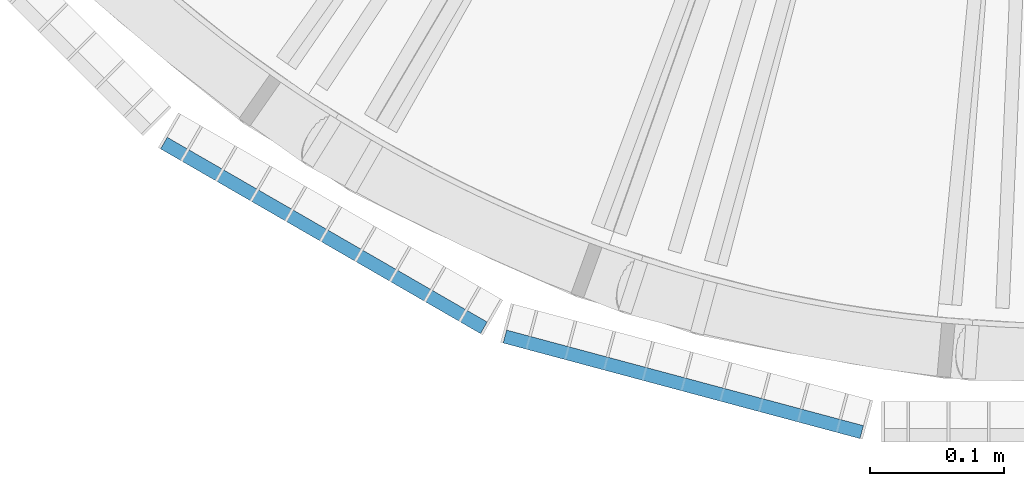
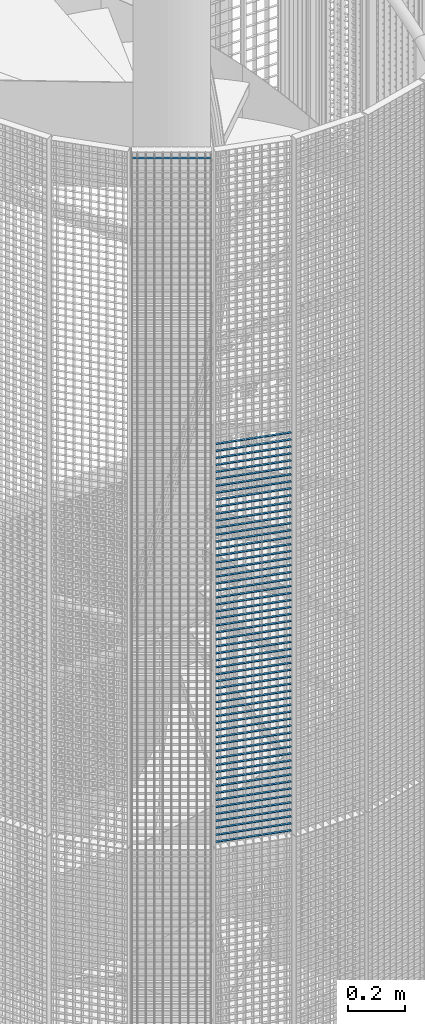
# One storey, part 139 of 1183: 59 beams, 2 elements without a shape of their own.
"""IFC2X3 building model written with IfcOpenShell, lengths in millimetres."""

from ifc_helpers import new_model, si_unit, frame, origin_with_axes, origin_2d_with_axis, place, context, subcontext, project, spatial, rectangle, extrude, material, type_object, element, aggregate, save


model = new_model("IFC2X3")

# Units and contexts
model_context = context("Model", 3, precision=1e-05, world=origin_with_axes())
body_context = subcontext(model_context, "Body", "Model", "MODEL_VIEW")
ifc_project = project(units=[si_unit("LENGTHUNIT", "METRE", prefix="MILLI"), si_unit("AREAUNIT", "SQUARE_METRE"), si_unit("VOLUMEUNIT", "CUBIC_METRE"), si_unit("MASSUNIT", "GRAM", prefix="KILO"), si_unit("TIMEUNIT", "SECOND"), si_unit("PLANEANGLEUNIT", "RADIAN"), si_unit("SOLIDANGLEUNIT", "STERADIAN"), si_unit("THERMODYNAMICTEMPERATUREUNIT", "DEGREE_CELSIUS"), si_unit("LUMINOUSINTENSITYUNIT", "LUMEN")], contexts=[model_context])

# Site, building, storey
site_placement = place(None, origin_with_axes())
site = spatial("IfcSite", under=ifc_project, at=site_placement, Name="Undefined", CompositionType="ELEMENT")
building_placement = place(site_placement, origin_with_axes())
building = spatial("IfcBuilding", under=site, at=building_placement, Name="Undefined", CompositionType="ELEMENT")
storey_placement = place(building_placement, origin_with_axes())
storey = spatial("IfcBuildingStorey", under=building, at=storey_placement, Name="Undefined", CompositionType="ELEMENT", Elevation=0.0)

# Assembly, beams
assembly_1_placement = place(storey_placement, origin_with_axes())
assembly_1 = element("IfcElementAssembly", 1, at=assembly_1_placement, inside=storey, Name="BORDURE", AssemblyPlace="NOTDEFINED", PredefinedType="NOTDEFINED")
ifc_material = material(Name="STEEL/S235JR")
beam_type = type_object("IfcBeamType", Name="PL2*10", PredefinedType="NOTDEFINED")
beam_1_placement = place(assembly_1_placement, frame((-421.483733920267, -1039.82309522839, 16740.0), z_axis=(-0.258819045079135, -0.965925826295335, 0.0), x_axis=(0.965925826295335, -0.258819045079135, 0.0)))
beam_1 = element("IfcBeam", 2, at=beam_1_placement, type_object=beam_type, material=ifc_material, Name="ENTRETOISE", context=body_context, shape_type="SweptSolid", body=[
    extrude(rectangle(XDim=2.0, YDim=10.0, at=origin_2d_with_axis()), frame((275.999999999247, 9.09494701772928e-13, 1.53210777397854e-14), z_axis=(-1.0, 0.0, 0.0), x_axis=(0.0, -1.0, 0.0)), (0.0, 0.0, 1.0), 276.0),
])
beam_2_placement = place(assembly_1_placement, frame((-421.483733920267, -1039.82309522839, 16710.0), z_axis=(-0.258819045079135, -0.965925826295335, 0.0), x_axis=(0.965925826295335, -0.258819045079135, 0.0)))
beam_2 = element("IfcBeam", 3, at=beam_2_placement, type_object=beam_type, material=ifc_material, Name="ENTRETOISE", context=body_context, shape_type="SweptSolid", body=[
    extrude(rectangle(XDim=2.0, YDim=10.0, at=origin_2d_with_axis()), frame((275.999999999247, 9.09494701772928e-13, 1.53210777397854e-14), z_axis=(-1.0, 0.0, 0.0), x_axis=(0.0, -1.0, 0.0)), (0.0, 0.0, 1.0), 276.0),
])
beam_3_placement = place(assembly_1_placement, frame((-421.483733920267, -1039.82309522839, 16680.0), z_axis=(-0.258819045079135, -0.965925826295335, 0.0), x_axis=(0.965925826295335, -0.258819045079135, 0.0)))
beam_3 = element("IfcBeam", 4, at=beam_3_placement, type_object=beam_type, material=ifc_material, Name="ENTRETOISE", context=body_context, shape_type="SweptSolid", body=[
    extrude(rectangle(XDim=2.0, YDim=10.0, at=origin_2d_with_axis()), frame((275.999999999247, 9.09494701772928e-13, 1.53210777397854e-14), z_axis=(-1.0, 0.0, 0.0), x_axis=(0.0, -1.0, 0.0)), (0.0, 0.0, 1.0), 276.0),
])
beam_4_placement = place(assembly_1_placement, frame((-421.483733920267, -1039.82309522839, 16650.0), z_axis=(-0.258819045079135, -0.965925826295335, 0.0), x_axis=(0.965925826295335, -0.258819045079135, 0.0)))
beam_4 = element("IfcBeam", 5, at=beam_4_placement, type_object=beam_type, material=ifc_material, Name="ENTRETOISE", context=body_context, shape_type="SweptSolid", body=[
    extrude(rectangle(XDim=2.0, YDim=10.0, at=origin_2d_with_axis()), frame((275.999999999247, 9.09494701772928e-13, 1.53210777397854e-14), z_axis=(-1.0, 0.0, 0.0), x_axis=(0.0, -1.0, 0.0)), (0.0, 0.0, 1.0), 276.0),
])
beam_5_placement = place(assembly_1_placement, frame((-421.483733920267, -1039.82309522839, 16620.0), z_axis=(-0.258819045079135, -0.965925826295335, 0.0), x_axis=(0.965925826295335, -0.258819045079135, 0.0)))
beam_5 = element("IfcBeam", 6, at=beam_5_placement, type_object=beam_type, material=ifc_material, Name="ENTRETOISE", context=body_context, shape_type="SweptSolid", body=[
    extrude(rectangle(XDim=2.0, YDim=10.0, at=origin_2d_with_axis()), frame((275.999999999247, 9.09494701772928e-13, 1.53210777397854e-14), z_axis=(-1.0, 0.0, 0.0), x_axis=(0.0, -1.0, 0.0)), (0.0, 0.0, 1.0), 276.0),
])
beam_6_placement = place(assembly_1_placement, frame((-421.483733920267, -1039.82309522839, 16590.0), z_axis=(-0.258819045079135, -0.965925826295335, 0.0), x_axis=(0.965925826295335, -0.258819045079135, 0.0)))
beam_6 = element("IfcBeam", 7, at=beam_6_placement, type_object=beam_type, material=ifc_material, Name="ENTRETOISE", context=body_context, shape_type="SweptSolid", body=[
    extrude(rectangle(XDim=2.0, YDim=10.0, at=origin_2d_with_axis()), frame((275.999999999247, 9.09494701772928e-13, 1.53210777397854e-14), z_axis=(-1.0, 0.0, 0.0), x_axis=(0.0, -1.0, 0.0)), (0.0, 0.0, 1.0), 276.0),
])
beam_7_placement = place(assembly_1_placement, frame((-421.483733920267, -1039.82309522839, 16560.0), z_axis=(-0.258819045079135, -0.965925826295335, 0.0), x_axis=(0.965925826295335, -0.258819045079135, 0.0)))
beam_7 = element("IfcBeam", 8, at=beam_7_placement, type_object=beam_type, material=ifc_material, Name="ENTRETOISE", context=body_context, shape_type="SweptSolid", body=[
    extrude(rectangle(XDim=2.0, YDim=10.0, at=origin_2d_with_axis()), frame((275.999999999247, 9.09494701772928e-13, 1.53210777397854e-14), z_axis=(-1.0, 0.0, 0.0), x_axis=(0.0, -1.0, 0.0)), (0.0, 0.0, 1.0), 276.0),
])
beam_8_placement = place(assembly_1_placement, frame((-421.483733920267, -1039.82309522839, 16530.0), z_axis=(-0.258819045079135, -0.965925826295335, 0.0), x_axis=(0.965925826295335, -0.258819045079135, 0.0)))
beam_8 = element("IfcBeam", 9, at=beam_8_placement, type_object=beam_type, material=ifc_material, Name="ENTRETOISE", context=body_context, shape_type="SweptSolid", body=[
    extrude(rectangle(XDim=2.0, YDim=10.0, at=origin_2d_with_axis()), frame((275.999999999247, 9.09494701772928e-13, 1.53210777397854e-14), z_axis=(-1.0, 0.0, 0.0), x_axis=(0.0, -1.0, 0.0)), (0.0, 0.0, 1.0), 276.0),
])
beam_9_placement = place(assembly_1_placement, frame((-421.483733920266, -1039.82309522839, 16500.0), z_axis=(-0.258819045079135, -0.965925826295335, 0.0), x_axis=(0.965925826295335, -0.258819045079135, 0.0)))
beam_9 = element("IfcBeam", 10, at=beam_9_placement, type_object=beam_type, material=ifc_material, Name="ENTRETOISE", context=body_context, shape_type="SweptSolid", body=[
    extrude(rectangle(XDim=2.0, YDim=10.0, at=origin_2d_with_axis()), frame((275.999999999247, 9.09494701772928e-13, 1.53210777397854e-14), z_axis=(-1.0, 0.0, 0.0), x_axis=(0.0, -1.0, 0.0)), (0.0, 0.0, 1.0), 276.0),
])
beam_10_placement = place(assembly_1_placement, frame((-421.483733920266, -1039.82309522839, 16470.0), z_axis=(-0.258819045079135, -0.965925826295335, 0.0), x_axis=(0.965925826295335, -0.258819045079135, 0.0)))
beam_10 = element("IfcBeam", 11, at=beam_10_placement, type_object=beam_type, material=ifc_material, Name="ENTRETOISE", context=body_context, shape_type="SweptSolid", body=[
    extrude(rectangle(XDim=2.0, YDim=10.0, at=origin_2d_with_axis()), frame((275.999999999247, 9.09494701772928e-13, 1.53210777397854e-14), z_axis=(-1.0, 0.0, 0.0), x_axis=(0.0, -1.0, 0.0)), (0.0, 0.0, 1.0), 276.0),
])
beam_11_placement = place(assembly_1_placement, frame((-421.483733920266, -1039.82309522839, 16440.0), z_axis=(-0.258819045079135, -0.965925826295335, 0.0), x_axis=(0.965925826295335, -0.258819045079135, 0.0)))
beam_11 = element("IfcBeam", 12, at=beam_11_placement, type_object=beam_type, material=ifc_material, Name="ENTRETOISE", context=body_context, shape_type="SweptSolid", body=[
    extrude(rectangle(XDim=2.0, YDim=10.0, at=origin_2d_with_axis()), frame((275.999999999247, 9.09494701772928e-13, 1.53210777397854e-14), z_axis=(-1.0, 0.0, 0.0), x_axis=(0.0, -1.0, 0.0)), (0.0, 0.0, 1.0), 276.0),
])
beam_12_placement = place(assembly_1_placement, frame((-421.483733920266, -1039.82309522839, 16410.0), z_axis=(-0.258819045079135, -0.965925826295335, 0.0), x_axis=(0.965925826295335, -0.258819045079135, 0.0)))
beam_12 = element("IfcBeam", 13, at=beam_12_placement, type_object=beam_type, material=ifc_material, Name="ENTRETOISE", context=body_context, shape_type="SweptSolid", body=[
    extrude(rectangle(XDim=2.0, YDim=10.0, at=origin_2d_with_axis()), frame((275.999999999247, 9.09494701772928e-13, 1.53210777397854e-14), z_axis=(-1.0, 0.0, 0.0), x_axis=(0.0, -1.0, 0.0)), (0.0, 0.0, 1.0), 276.0),
])
beam_13_placement = place(assembly_1_placement, frame((-421.483733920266, -1039.82309522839, 16380.0), z_axis=(-0.258819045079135, -0.965925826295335, 0.0), x_axis=(0.965925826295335, -0.258819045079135, 0.0)))
beam_13 = element("IfcBeam", 14, at=beam_13_placement, type_object=beam_type, material=ifc_material, Name="ENTRETOISE", context=body_context, shape_type="SweptSolid", body=[
    extrude(rectangle(XDim=2.0, YDim=10.0, at=origin_2d_with_axis()), frame((275.999999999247, 9.09494701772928e-13, 1.53210777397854e-14), z_axis=(-1.0, 0.0, 0.0), x_axis=(0.0, -1.0, 0.0)), (0.0, 0.0, 1.0), 276.0),
])
beam_14_placement = place(assembly_1_placement, frame((-421.483733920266, -1039.82309522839, 16350.0), z_axis=(-0.258819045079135, -0.965925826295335, 0.0), x_axis=(0.965925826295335, -0.258819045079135, 0.0)))
beam_14 = element("IfcBeam", 15, at=beam_14_placement, type_object=beam_type, material=ifc_material, Name="ENTRETOISE", context=body_context, shape_type="SweptSolid", body=[
    extrude(rectangle(XDim=2.0, YDim=10.0, at=origin_2d_with_axis()), frame((275.999999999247, 9.09494701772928e-13, 1.53210777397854e-14), z_axis=(-1.0, 0.0, 0.0), x_axis=(0.0, -1.0, 0.0)), (0.0, 0.0, 1.0), 276.0),
])
beam_15_placement = place(assembly_1_placement, frame((-421.483733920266, -1039.82309522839, 16320.0), z_axis=(-0.258819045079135, -0.965925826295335, 0.0), x_axis=(0.965925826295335, -0.258819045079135, 0.0)))
beam_15 = element("IfcBeam", 16, at=beam_15_placement, type_object=beam_type, material=ifc_material, Name="ENTRETOISE", context=body_context, shape_type="SweptSolid", body=[
    extrude(rectangle(XDim=2.0, YDim=10.0, at=origin_2d_with_axis()), frame((275.999999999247, 9.09494701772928e-13, 1.53210777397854e-14), z_axis=(-1.0, 0.0, 0.0), x_axis=(0.0, -1.0, 0.0)), (0.0, 0.0, 1.0), 276.0),
])
beam_16_placement = place(assembly_1_placement, frame((-421.483733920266, -1039.82309522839, 16290.0), z_axis=(-0.258819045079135, -0.965925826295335, 0.0), x_axis=(0.965925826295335, -0.258819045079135, 0.0)))
beam_16 = element("IfcBeam", 17, at=beam_16_placement, type_object=beam_type, material=ifc_material, Name="ENTRETOISE", context=body_context, shape_type="SweptSolid", body=[
    extrude(rectangle(XDim=2.0, YDim=10.0, at=origin_2d_with_axis()), frame((275.999999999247, 9.09494701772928e-13, 1.53210777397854e-14), z_axis=(-1.0, 0.0, 0.0), x_axis=(0.0, -1.0, 0.0)), (0.0, 0.0, 1.0), 276.0),
])
beam_17_placement = place(assembly_1_placement, frame((-421.483733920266, -1039.82309522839, 16260.0), z_axis=(-0.258819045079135, -0.965925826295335, 0.0), x_axis=(0.965925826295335, -0.258819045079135, 0.0)))
beam_17 = element("IfcBeam", 18, at=beam_17_placement, type_object=beam_type, material=ifc_material, Name="ENTRETOISE", context=body_context, shape_type="SweptSolid", body=[
    extrude(rectangle(XDim=2.0, YDim=10.0, at=origin_2d_with_axis()), frame((275.999999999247, 9.09494701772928e-13, 1.53210777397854e-14), z_axis=(-1.0, 0.0, 0.0), x_axis=(0.0, -1.0, 0.0)), (0.0, 0.0, 1.0), 276.0),
])
beam_18_placement = place(assembly_1_placement, frame((-421.483733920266, -1039.82309522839, 16230.0), z_axis=(-0.258819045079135, -0.965925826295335, 0.0), x_axis=(0.965925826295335, -0.258819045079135, 0.0)))
beam_18 = element("IfcBeam", 19, at=beam_18_placement, type_object=beam_type, material=ifc_material, Name="ENTRETOISE", context=body_context, shape_type="SweptSolid", body=[
    extrude(rectangle(XDim=2.0, YDim=10.0, at=origin_2d_with_axis()), frame((275.999999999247, 9.09494701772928e-13, 1.53210777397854e-14), z_axis=(-1.0, 0.0, 0.0), x_axis=(0.0, -1.0, 0.0)), (0.0, 0.0, 1.0), 276.0),
])
beam_19_placement = place(assembly_1_placement, frame((-421.483733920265, -1039.82309522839, 16200.0), z_axis=(-0.258819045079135, -0.965925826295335, 0.0), x_axis=(0.965925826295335, -0.258819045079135, 0.0)))
beam_19 = element("IfcBeam", 20, at=beam_19_placement, type_object=beam_type, material=ifc_material, Name="ENTRETOISE", context=body_context, shape_type="SweptSolid", body=[
    extrude(rectangle(XDim=2.0, YDim=10.0, at=origin_2d_with_axis()), frame((275.999999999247, 9.09494701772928e-13, 1.53210777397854e-14), z_axis=(-1.0, 0.0, 0.0), x_axis=(0.0, -1.0, 0.0)), (0.0, 0.0, 1.0), 276.0),
])
beam_20_placement = place(assembly_1_placement, frame((-421.483733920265, -1039.82309522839, 16170.0), z_axis=(-0.258819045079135, -0.965925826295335, 0.0), x_axis=(0.965925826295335, -0.258819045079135, 0.0)))
beam_20 = element("IfcBeam", 21, at=beam_20_placement, type_object=beam_type, material=ifc_material, Name="ENTRETOISE", context=body_context, shape_type="SweptSolid", body=[
    extrude(rectangle(XDim=2.0, YDim=10.0, at=origin_2d_with_axis()), frame((275.999999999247, 9.09494701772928e-13, 1.53210777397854e-14), z_axis=(-1.0, 0.0, 0.0), x_axis=(0.0, -1.0, 0.0)), (0.0, 0.0, 1.0), 276.0),
])
beam_21_placement = place(assembly_1_placement, frame((-421.483733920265, -1039.82309522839, 16140.0), z_axis=(-0.258819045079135, -0.965925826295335, 0.0), x_axis=(0.965925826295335, -0.258819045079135, 0.0)))
beam_21 = element("IfcBeam", 22, at=beam_21_placement, type_object=beam_type, material=ifc_material, Name="ENTRETOISE", context=body_context, shape_type="SweptSolid", body=[
    extrude(rectangle(XDim=2.0, YDim=10.0, at=origin_2d_with_axis()), frame((275.999999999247, 9.09494701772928e-13, 1.53210777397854e-14), z_axis=(-1.0, 0.0, 0.0), x_axis=(0.0, -1.0, 0.0)), (0.0, 0.0, 1.0), 276.0),
])
beam_22_placement = place(assembly_1_placement, frame((-421.483733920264, -1039.82309522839, 15720.0), z_axis=(-0.258819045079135, -0.965925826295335, 0.0), x_axis=(0.965925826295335, -0.258819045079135, 0.0)))
beam_22 = element("IfcBeam", 23, at=beam_22_placement, type_object=beam_type, material=ifc_material, Name="ENTRETOISE", context=body_context, shape_type="SweptSolid", body=[
    extrude(rectangle(XDim=2.0, YDim=10.0, at=origin_2d_with_axis()), frame((275.999999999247, 9.09494701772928e-13, 1.53210777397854e-14), z_axis=(-1.0, 0.0, 0.0), x_axis=(0.0, -1.0, 0.0)), (0.0, 0.0, 1.0), 276.0),
])
beam_23_placement = place(assembly_1_placement, frame((-421.483733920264, -1039.82309522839, 15690.0), z_axis=(-0.258819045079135, -0.965925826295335, 0.0), x_axis=(0.965925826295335, -0.258819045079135, 0.0)))
beam_23 = element("IfcBeam", 24, at=beam_23_placement, type_object=beam_type, material=ifc_material, Name="ENTRETOISE", context=body_context, shape_type="SweptSolid", body=[
    extrude(rectangle(XDim=2.0, YDim=10.0, at=origin_2d_with_axis()), frame((275.999999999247, 9.09494701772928e-13, 1.53210777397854e-14), z_axis=(-1.0, 0.0, 0.0), x_axis=(0.0, -1.0, 0.0)), (0.0, 0.0, 1.0), 276.0),
])
beam_24_placement = place(assembly_1_placement, frame((-421.483733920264, -1039.82309522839, 15750.0), z_axis=(-0.258819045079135, -0.965925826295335, 0.0), x_axis=(0.965925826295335, -0.258819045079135, 0.0)))
beam_24 = element("IfcBeam", 25, at=beam_24_placement, type_object=beam_type, material=ifc_material, Name="ENTRETOISE", context=body_context, shape_type="SweptSolid", body=[
    extrude(rectangle(XDim=2.0, YDim=10.0, at=origin_2d_with_axis()), frame((275.999999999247, 9.09494701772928e-13, 1.53210777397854e-14), z_axis=(-1.0, 0.0, 0.0), x_axis=(0.0, -1.0, 0.0)), (0.0, 0.0, 1.0), 276.0),
])
beam_25_placement = place(assembly_1_placement, frame((-421.483733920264, -1039.82309522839, 15660.0), z_axis=(-0.258819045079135, -0.965925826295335, 0.0), x_axis=(0.965925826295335, -0.258819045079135, 0.0)))
beam_25 = element("IfcBeam", 26, at=beam_25_placement, type_object=beam_type, material=ifc_material, Name="ENTRETOISE", context=body_context, shape_type="SweptSolid", body=[
    extrude(rectangle(XDim=2.0, YDim=10.0, at=origin_2d_with_axis()), frame((275.999999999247, 9.09494701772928e-13, 1.53210777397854e-14), z_axis=(-1.0, 0.0, 0.0), x_axis=(0.0, -1.0, 0.0)), (0.0, 0.0, 1.0), 276.0),
])
beam_26_placement = place(assembly_1_placement, frame((-421.483733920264, -1039.82309522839, 15630.0), z_axis=(-0.258819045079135, -0.965925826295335, 0.0), x_axis=(0.965925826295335, -0.258819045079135, 0.0)))
beam_26 = element("IfcBeam", 27, at=beam_26_placement, type_object=beam_type, material=ifc_material, Name="ENTRETOISE", context=body_context, shape_type="SweptSolid", body=[
    extrude(rectangle(XDim=2.0, YDim=10.0, at=origin_2d_with_axis()), frame((275.999999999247, 9.09494701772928e-13, 1.53210777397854e-14), z_axis=(-1.0, 0.0, 0.0), x_axis=(0.0, -1.0, 0.0)), (0.0, 0.0, 1.0), 276.0),
])
beam_27_placement = place(assembly_1_placement, frame((-421.483733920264, -1039.82309522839, 15780.0), z_axis=(-0.258819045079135, -0.965925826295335, 0.0), x_axis=(0.965925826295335, -0.258819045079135, 0.0)))
beam_27 = element("IfcBeam", 28, at=beam_27_placement, type_object=beam_type, material=ifc_material, Name="ENTRETOISE", context=body_context, shape_type="SweptSolid", body=[
    extrude(rectangle(XDim=2.0, YDim=10.0, at=origin_2d_with_axis()), frame((275.999999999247, 9.09494701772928e-13, 1.53210777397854e-14), z_axis=(-1.0, 0.0, 0.0), x_axis=(0.0, -1.0, 0.0)), (0.0, 0.0, 1.0), 276.0),
])
beam_28_placement = place(assembly_1_placement, frame((-421.483733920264, -1039.82309522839, 15600.0), z_axis=(-0.258819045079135, -0.965925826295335, 0.0), x_axis=(0.965925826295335, -0.258819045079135, 0.0)))
beam_28 = element("IfcBeam", 29, at=beam_28_placement, type_object=beam_type, material=ifc_material, Name="ENTRETOISE", context=body_context, shape_type="SweptSolid", body=[
    extrude(rectangle(XDim=2.0, YDim=10.0, at=origin_2d_with_axis()), frame((275.999999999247, 9.09494701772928e-13, 1.53210777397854e-14), z_axis=(-1.0, 0.0, 0.0), x_axis=(0.0, -1.0, 0.0)), (0.0, 0.0, 1.0), 276.0),
])
beam_29_placement = place(assembly_1_placement, frame((-421.483733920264, -1039.82309522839, 15810.0), z_axis=(-0.258819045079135, -0.965925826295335, 0.0), x_axis=(0.965925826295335, -0.258819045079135, 0.0)))
beam_29 = element("IfcBeam", 30, at=beam_29_placement, type_object=beam_type, material=ifc_material, Name="ENTRETOISE", context=body_context, shape_type="SweptSolid", body=[
    extrude(rectangle(XDim=2.0, YDim=10.0, at=origin_2d_with_axis()), frame((275.999999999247, 9.09494701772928e-13, 1.53210777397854e-14), z_axis=(-1.0, 0.0, 0.0), x_axis=(0.0, -1.0, 0.0)), (0.0, 0.0, 1.0), 276.0),
])
beam_30_placement = place(assembly_1_placement, frame((-421.483733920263, -1039.82309522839, 15570.0), z_axis=(-0.258819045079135, -0.965925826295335, 0.0), x_axis=(0.965925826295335, -0.258819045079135, 0.0)))
beam_30 = element("IfcBeam", 31, at=beam_30_placement, type_object=beam_type, material=ifc_material, Name="ENTRETOISE", context=body_context, shape_type="SweptSolid", body=[
    extrude(rectangle(XDim=2.0, YDim=10.0, at=origin_2d_with_axis()), frame((275.999999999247, 9.09494701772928e-13, 1.53210777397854e-14), z_axis=(-1.0, 0.0, 0.0), x_axis=(0.0, -1.0, 0.0)), (0.0, 0.0, 1.0), 276.0),
])
beam_31_placement = place(assembly_1_placement, frame((-421.483733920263, -1039.82309522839, 15540.0), z_axis=(-0.258819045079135, -0.965925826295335, 0.0), x_axis=(0.965925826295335, -0.258819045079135, 0.0)))
beam_31 = element("IfcBeam", 32, at=beam_31_placement, type_object=beam_type, material=ifc_material, Name="ENTRETOISE", context=body_context, shape_type="SweptSolid", body=[
    extrude(rectangle(XDim=2.0, YDim=10.0, at=origin_2d_with_axis()), frame((275.999999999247, 9.09494701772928e-13, 1.53210777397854e-14), z_axis=(-1.0, 0.0, 0.0), x_axis=(0.0, -1.0, 0.0)), (0.0, 0.0, 1.0), 276.0),
])
beam_32_placement = place(assembly_1_placement, frame((-421.483733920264, -1039.82309522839, 15840.0), z_axis=(-0.258819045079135, -0.965925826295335, 0.0), x_axis=(0.965925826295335, -0.258819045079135, 0.0)))
beam_32 = element("IfcBeam", 33, at=beam_32_placement, type_object=beam_type, material=ifc_material, Name="ENTRETOISE", context=body_context, shape_type="SweptSolid", body=[
    extrude(rectangle(XDim=2.0, YDim=10.0, at=origin_2d_with_axis()), frame((275.999999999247, 9.09494701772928e-13, 1.53210777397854e-14), z_axis=(-1.0, 0.0, 0.0), x_axis=(0.0, -1.0, 0.0)), (0.0, 0.0, 1.0), 276.0),
])
beam_33_placement = place(assembly_1_placement, frame((-421.483733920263, -1039.82309522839, 15510.0), z_axis=(-0.258819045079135, -0.965925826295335, 0.0), x_axis=(0.965925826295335, -0.258819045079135, 0.0)))
beam_33 = element("IfcBeam", 34, at=beam_33_placement, type_object=beam_type, material=ifc_material, Name="ENTRETOISE", context=body_context, shape_type="SweptSolid", body=[
    extrude(rectangle(XDim=2.0, YDim=10.0, at=origin_2d_with_axis()), frame((275.999999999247, 9.09494701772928e-13, 1.53210777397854e-14), z_axis=(-1.0, 0.0, 0.0), x_axis=(0.0, -1.0, 0.0)), (0.0, 0.0, 1.0), 276.0),
])
beam_34_placement = place(assembly_1_placement, frame((-421.483733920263, -1039.82309522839, 15480.0), z_axis=(-0.258819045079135, -0.965925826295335, 0.0), x_axis=(0.965925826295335, -0.258819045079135, 0.0)))
beam_34 = element("IfcBeam", 35, at=beam_34_placement, type_object=beam_type, material=ifc_material, Name="ENTRETOISE", context=body_context, shape_type="SweptSolid", body=[
    extrude(rectangle(XDim=2.0, YDim=10.0, at=origin_2d_with_axis()), frame((275.999999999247, 9.09494701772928e-13, 1.53210777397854e-14), z_axis=(-1.0, 0.0, 0.0), x_axis=(0.0, -1.0, 0.0)), (0.0, 0.0, 1.0), 276.0),
])
beam_35_placement = place(assembly_1_placement, frame((-421.483733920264, -1039.82309522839, 15870.0), z_axis=(-0.258819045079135, -0.965925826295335, 0.0), x_axis=(0.965925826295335, -0.258819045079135, 0.0)))
beam_35 = element("IfcBeam", 36, at=beam_35_placement, type_object=beam_type, material=ifc_material, Name="ENTRETOISE", context=body_context, shape_type="SweptSolid", body=[
    extrude(rectangle(XDim=2.0, YDim=10.0, at=origin_2d_with_axis()), frame((275.999999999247, 9.09494701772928e-13, 1.53210777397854e-14), z_axis=(-1.0, 0.0, 0.0), x_axis=(0.0, -1.0, 0.0)), (0.0, 0.0, 1.0), 276.0),
])
beam_36_placement = place(assembly_1_placement, frame((-421.483733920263, -1039.82309522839, 15450.0), z_axis=(-0.258819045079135, -0.965925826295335, 0.0), x_axis=(0.965925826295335, -0.258819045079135, 0.0)))
beam_36 = element("IfcBeam", 37, at=beam_36_placement, type_object=beam_type, material=ifc_material, Name="ENTRETOISE", context=body_context, shape_type="SweptSolid", body=[
    extrude(rectangle(XDim=2.0, YDim=10.0, at=origin_2d_with_axis()), frame((275.999999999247, 9.09494701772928e-13, 1.53210777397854e-14), z_axis=(-1.0, 0.0, 0.0), x_axis=(0.0, -1.0, 0.0)), (0.0, 0.0, 1.0), 276.0),
])
beam_37_placement = place(assembly_1_placement, frame((-421.483733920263, -1039.82309522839, 15420.0), z_axis=(-0.258819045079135, -0.965925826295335, 0.0), x_axis=(0.965925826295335, -0.258819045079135, 0.0)))
beam_37 = element("IfcBeam", 38, at=beam_37_placement, type_object=beam_type, material=ifc_material, Name="ENTRETOISE", context=body_context, shape_type="SweptSolid", body=[
    extrude(rectangle(XDim=2.0, YDim=10.0, at=origin_2d_with_axis()), frame((275.999999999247, 9.09494701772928e-13, 1.53210777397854e-14), z_axis=(-1.0, 0.0, 0.0), x_axis=(0.0, -1.0, 0.0)), (0.0, 0.0, 1.0), 276.0),
])
beam_38_placement = place(assembly_1_placement, frame((-421.483733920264, -1039.82309522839, 15900.0), z_axis=(-0.258819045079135, -0.965925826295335, 0.0), x_axis=(0.965925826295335, -0.258819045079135, 0.0)))
beam_38 = element("IfcBeam", 39, at=beam_38_placement, type_object=beam_type, material=ifc_material, Name="ENTRETOISE", context=body_context, shape_type="SweptSolid", body=[
    extrude(rectangle(XDim=2.0, YDim=10.0, at=origin_2d_with_axis()), frame((275.999999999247, 9.09494701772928e-13, 1.53210777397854e-14), z_axis=(-1.0, 0.0, 0.0), x_axis=(0.0, -1.0, 0.0)), (0.0, 0.0, 1.0), 276.0),
])
beam_39_placement = place(assembly_1_placement, frame((-421.483733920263, -1039.82309522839, 15390.0), z_axis=(-0.258819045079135, -0.965925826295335, 0.0), x_axis=(0.965925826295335, -0.258819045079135, 0.0)))
beam_39 = element("IfcBeam", 40, at=beam_39_placement, type_object=beam_type, material=ifc_material, Name="ENTRETOISE", context=body_context, shape_type="SweptSolid", body=[
    extrude(rectangle(XDim=2.0, YDim=10.0, at=origin_2d_with_axis()), frame((275.999999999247, 9.09494701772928e-13, 1.53210777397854e-14), z_axis=(-1.0, 0.0, 0.0), x_axis=(0.0, -1.0, 0.0)), (0.0, 0.0, 1.0), 276.0),
])
beam_40_placement = place(assembly_1_placement, frame((-421.483733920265, -1039.82309522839, 15930.0), z_axis=(-0.258819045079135, -0.965925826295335, 0.0), x_axis=(0.965925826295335, -0.258819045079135, 0.0)))
beam_40 = element("IfcBeam", 41, at=beam_40_placement, type_object=beam_type, material=ifc_material, Name="ENTRETOISE", context=body_context, shape_type="SweptSolid", body=[
    extrude(rectangle(XDim=2.0, YDim=10.0, at=origin_2d_with_axis()), frame((275.999999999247, 9.09494701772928e-13, 1.53210777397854e-14), z_axis=(-1.0, 0.0, 0.0), x_axis=(0.0, -1.0, 0.0)), (0.0, 0.0, 1.0), 276.0),
])
beam_41_placement = place(assembly_1_placement, frame((-421.483733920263, -1039.82309522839, 15360.0), z_axis=(-0.258819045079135, -0.965925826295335, 0.0), x_axis=(0.965925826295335, -0.258819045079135, 0.0)))
beam_41 = element("IfcBeam", 42, at=beam_41_placement, type_object=beam_type, material=ifc_material, Name="ENTRETOISE", context=body_context, shape_type="SweptSolid", body=[
    extrude(rectangle(XDim=2.0, YDim=10.0, at=origin_2d_with_axis()), frame((275.999999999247, 9.09494701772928e-13, 1.53210777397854e-14), z_axis=(-1.0, 0.0, 0.0), x_axis=(0.0, -1.0, 0.0)), (0.0, 0.0, 1.0), 276.0),
])
beam_42_placement = place(assembly_1_placement, frame((-421.483733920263, -1039.82309522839, 15330.0), z_axis=(-0.258819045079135, -0.965925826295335, 0.0), x_axis=(0.965925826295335, -0.258819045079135, 0.0)))
beam_42 = element("IfcBeam", 43, at=beam_42_placement, type_object=beam_type, material=ifc_material, Name="ENTRETOISE", context=body_context, shape_type="SweptSolid", body=[
    extrude(rectangle(XDim=2.0, YDim=10.0, at=origin_2d_with_axis()), frame((275.999999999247, 9.09494701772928e-13, 1.53210777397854e-14), z_axis=(-1.0, 0.0, 0.0), x_axis=(0.0, -1.0, 0.0)), (0.0, 0.0, 1.0), 276.0),
])
beam_43_placement = place(assembly_1_placement, frame((-421.483733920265, -1039.82309522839, 15960.0), z_axis=(-0.258819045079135, -0.965925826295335, 0.0), x_axis=(0.965925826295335, -0.258819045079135, 0.0)))
beam_43 = element("IfcBeam", 44, at=beam_43_placement, type_object=beam_type, material=ifc_material, Name="ENTRETOISE", context=body_context, shape_type="SweptSolid", body=[
    extrude(rectangle(XDim=2.0, YDim=10.0, at=origin_2d_with_axis()), frame((275.999999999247, 9.09494701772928e-13, 1.53210777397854e-14), z_axis=(-1.0, 0.0, 0.0), x_axis=(0.0, -1.0, 0.0)), (0.0, 0.0, 1.0), 276.0),
])
beam_44_placement = place(assembly_1_placement, frame((-421.483733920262, -1039.82309522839, 15300.0), z_axis=(-0.258819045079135, -0.965925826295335, 0.0), x_axis=(0.965925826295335, -0.258819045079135, 0.0)))
beam_44 = element("IfcBeam", 45, at=beam_44_placement, type_object=beam_type, material=ifc_material, Name="ENTRETOISE", context=body_context, shape_type="SweptSolid", body=[
    extrude(rectangle(XDim=2.0, YDim=10.0, at=origin_2d_with_axis()), frame((275.999999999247, 9.09494701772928e-13, 1.53210777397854e-14), z_axis=(-1.0, 0.0, 0.0), x_axis=(0.0, -1.0, 0.0)), (0.0, 0.0, 1.0), 276.0),
])
beam_45_placement = place(assembly_1_placement, frame((-421.483733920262, -1039.82309522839, 15270.0), z_axis=(-0.258819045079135, -0.965925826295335, 0.0), x_axis=(0.965925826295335, -0.258819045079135, 0.0)))
beam_45 = element("IfcBeam", 46, at=beam_45_placement, type_object=beam_type, material=ifc_material, Name="ENTRETOISE", context=body_context, shape_type="SweptSolid", body=[
    extrude(rectangle(XDim=2.0, YDim=10.0, at=origin_2d_with_axis()), frame((275.999999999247, 9.09494701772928e-13, 1.53210777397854e-14), z_axis=(-1.0, 0.0, 0.0), x_axis=(0.0, -1.0, 0.0)), (0.0, 0.0, 1.0), 276.0),
])
beam_46_placement = place(assembly_1_placement, frame((-421.483733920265, -1039.82309522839, 15990.0), z_axis=(-0.258819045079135, -0.965925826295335, 0.0), x_axis=(0.965925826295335, -0.258819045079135, 0.0)))
beam_46 = element("IfcBeam", 47, at=beam_46_placement, type_object=beam_type, material=ifc_material, Name="ENTRETOISE", context=body_context, shape_type="SweptSolid", body=[
    extrude(rectangle(XDim=2.0, YDim=10.0, at=origin_2d_with_axis()), frame((275.999999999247, 9.09494701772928e-13, 1.53210777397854e-14), z_axis=(-1.0, 0.0, 0.0), x_axis=(0.0, -1.0, 0.0)), (0.0, 0.0, 1.0), 276.0),
])
beam_47_placement = place(assembly_1_placement, frame((-421.483733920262, -1039.82309522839, 15240.0), z_axis=(-0.258819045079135, -0.965925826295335, 0.0), x_axis=(0.965925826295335, -0.258819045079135, 0.0)))
beam_47 = element("IfcBeam", 48, at=beam_47_placement, type_object=beam_type, material=ifc_material, Name="ENTRETOISE", context=body_context, shape_type="SweptSolid", body=[
    extrude(rectangle(XDim=2.0, YDim=10.0, at=origin_2d_with_axis()), frame((275.999999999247, 9.09494701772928e-13, 1.53210777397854e-14), z_axis=(-1.0, 0.0, 0.0), x_axis=(0.0, -1.0, 0.0)), (0.0, 0.0, 1.0), 276.0),
])
beam_48_placement = place(assembly_1_placement, frame((-421.483733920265, -1039.82309522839, 16020.0), z_axis=(-0.258819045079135, -0.965925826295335, 0.0), x_axis=(0.965925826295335, -0.258819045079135, 0.0)))
beam_48 = element("IfcBeam", 49, at=beam_48_placement, type_object=beam_type, material=ifc_material, Name="ENTRETOISE", context=body_context, shape_type="SweptSolid", body=[
    extrude(rectangle(XDim=2.0, YDim=10.0, at=origin_2d_with_axis()), frame((275.999999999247, 9.09494701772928e-13, 1.53210777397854e-14), z_axis=(-1.0, 0.0, 0.0), x_axis=(0.0, -1.0, 0.0)), (0.0, 0.0, 1.0), 276.0),
])
beam_49_placement = place(assembly_1_placement, frame((-421.483733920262, -1039.82309522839, 15210.0), z_axis=(-0.258819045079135, -0.965925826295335, 0.0), x_axis=(0.965925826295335, -0.258819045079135, 0.0)))
beam_49 = element("IfcBeam", 50, at=beam_49_placement, type_object=beam_type, material=ifc_material, Name="ENTRETOISE", context=body_context, shape_type="SweptSolid", body=[
    extrude(rectangle(XDim=2.0, YDim=10.0, at=origin_2d_with_axis()), frame((275.999999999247, 9.09494701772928e-13, 1.53210777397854e-14), z_axis=(-1.0, 0.0, 0.0), x_axis=(0.0, -1.0, 0.0)), (0.0, 0.0, 1.0), 276.0),
])
beam_50_placement = place(assembly_1_placement, frame((-421.483733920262, -1039.82309522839, 15180.0), z_axis=(-0.258819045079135, -0.965925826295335, 0.0), x_axis=(0.965925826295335, -0.258819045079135, 0.0)))
beam_50 = element("IfcBeam", 51, at=beam_50_placement, type_object=beam_type, material=ifc_material, Name="ENTRETOISE", context=body_context, shape_type="SweptSolid", body=[
    extrude(rectangle(XDim=2.0, YDim=10.0, at=origin_2d_with_axis()), frame((275.999999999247, 9.09494701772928e-13, 1.53210777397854e-14), z_axis=(-1.0, 0.0, 0.0), x_axis=(0.0, -1.0, 0.0)), (0.0, 0.0, 1.0), 276.0),
])
beam_51_placement = place(assembly_1_placement, frame((-421.483733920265, -1039.82309522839, 16050.0), z_axis=(-0.258819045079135, -0.965925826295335, 0.0), x_axis=(0.965925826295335, -0.258819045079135, 0.0)))
beam_51 = element("IfcBeam", 52, at=beam_51_placement, type_object=beam_type, material=ifc_material, Name="ENTRETOISE", context=body_context, shape_type="SweptSolid", body=[
    extrude(rectangle(XDim=2.0, YDim=10.0, at=origin_2d_with_axis()), frame((275.999999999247, 9.09494701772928e-13, 1.53210777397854e-14), z_axis=(-1.0, 0.0, 0.0), x_axis=(0.0, -1.0, 0.0)), (0.0, 0.0, 1.0), 276.0),
])
beam_52_placement = place(assembly_1_placement, frame((-421.483733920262, -1039.82309522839, 15150.0), z_axis=(-0.258819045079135, -0.965925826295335, 0.0), x_axis=(0.965925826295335, -0.258819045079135, 0.0)))
beam_52 = element("IfcBeam", 53, at=beam_52_placement, type_object=beam_type, material=ifc_material, Name="ENTRETOISE", context=body_context, shape_type="SweptSolid", body=[
    extrude(rectangle(XDim=2.0, YDim=10.0, at=origin_2d_with_axis()), frame((275.999999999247, 9.09494701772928e-13, 1.53210777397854e-14), z_axis=(-1.0, 0.0, 0.0), x_axis=(0.0, -1.0, 0.0)), (0.0, 0.0, 1.0), 276.0),
])
beam_53_placement = place(assembly_1_placement, frame((-421.483733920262, -1039.82309522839, 15120.0), z_axis=(-0.258819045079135, -0.965925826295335, 0.0), x_axis=(0.965925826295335, -0.258819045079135, 0.0)))
beam_53 = element("IfcBeam", 54, at=beam_53_placement, type_object=beam_type, material=ifc_material, Name="ENTRETOISE", context=body_context, shape_type="SweptSolid", body=[
    extrude(rectangle(XDim=2.0, YDim=10.0, at=origin_2d_with_axis()), frame((275.999999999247, 9.09494701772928e-13, 1.53210777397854e-14), z_axis=(-1.0, 0.0, 0.0), x_axis=(0.0, -1.0, 0.0)), (0.0, 0.0, 1.0), 276.0),
])
beam_54_placement = place(assembly_1_placement, frame((-421.483733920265, -1039.82309522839, 16080.0), z_axis=(-0.258819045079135, -0.965925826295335, 0.0), x_axis=(0.965925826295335, -0.258819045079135, 0.0)))
beam_54 = element("IfcBeam", 55, at=beam_54_placement, type_object=beam_type, material=ifc_material, Name="ENTRETOISE", context=body_context, shape_type="SweptSolid", body=[
    extrude(rectangle(XDim=2.0, YDim=10.0, at=origin_2d_with_axis()), frame((275.999999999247, 9.09494701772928e-13, 1.53210777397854e-14), z_axis=(-1.0, 0.0, 0.0), x_axis=(0.0, -1.0, 0.0)), (0.0, 0.0, 1.0), 276.0),
])
beam_55_placement = place(assembly_1_placement, frame((-421.483733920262, -1039.82309522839, 15090.0), z_axis=(-0.258819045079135, -0.965925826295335, 0.0), x_axis=(0.965925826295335, -0.258819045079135, 0.0)))
beam_55 = element("IfcBeam", 56, at=beam_55_placement, type_object=beam_type, material=ifc_material, Name="ENTRETOISE", context=body_context, shape_type="SweptSolid", body=[
    extrude(rectangle(XDim=2.0, YDim=10.0, at=origin_2d_with_axis()), frame((275.999999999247, 9.09494701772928e-13, 1.53210777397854e-14), z_axis=(-1.0, 0.0, 0.0), x_axis=(0.0, -1.0, 0.0)), (0.0, 0.0, 1.0), 276.0),
])
beam_56_placement = place(assembly_1_placement, frame((-421.483733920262, -1039.82309522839, 15060.0), z_axis=(-0.258819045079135, -0.965925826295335, 0.0), x_axis=(0.965925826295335, -0.258819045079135, 0.0)))
beam_56 = element("IfcBeam", 57, at=beam_56_placement, type_object=beam_type, material=ifc_material, Name="ENTRETOISE", context=body_context, shape_type="SweptSolid", body=[
    extrude(rectangle(XDim=2.0, YDim=10.0, at=origin_2d_with_axis()), frame((275.999999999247, 9.09494701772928e-13, 1.53210777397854e-14), z_axis=(-1.0, 0.0, 0.0), x_axis=(0.0, -1.0, 0.0)), (0.0, 0.0, 1.0), 276.0),
])
beam_57_placement = place(assembly_1_placement, frame((-421.483733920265, -1039.82309522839, 16110.0), z_axis=(-0.258819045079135, -0.965925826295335, 0.0), x_axis=(0.965925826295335, -0.258819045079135, 0.0)))
beam_57 = element("IfcBeam", 58, at=beam_57_placement, type_object=beam_type, material=ifc_material, Name="ENTRETOISE", context=body_context, shape_type="SweptSolid", body=[
    extrude(rectangle(XDim=2.0, YDim=10.0, at=origin_2d_with_axis()), frame((275.999999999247, 9.09494701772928e-13, 1.53210777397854e-14), z_axis=(-1.0, 0.0, 0.0), x_axis=(0.0, -1.0, 0.0)), (0.0, 0.0, 1.0), 276.0),
])
beam_58_placement = place(assembly_1_placement, frame((-421.48373392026, -1039.82309522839, 15030.0), z_axis=(-0.258819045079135, -0.965925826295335, 0.0), x_axis=(0.965925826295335, -0.258819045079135, 0.0)))
beam_58 = element("IfcBeam", 59, at=beam_58_placement, type_object=beam_type, material=ifc_material, Name="ENTRETOISE", context=body_context, shape_type="SweptSolid", body=[
    extrude(rectangle(XDim=2.0, YDim=10.0, at=origin_2d_with_axis()), frame((275.999999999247, 9.09494701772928e-13, 1.53210777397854e-14), z_axis=(-1.0, 0.0, 0.0), x_axis=(0.0, -1.0, 0.0)), (0.0, 0.0, 1.0), 276.0),
])
aggregate(assembly_1, [beam_1, beam_2, beam_3, beam_4, beam_5, beam_6, beam_7, beam_8, beam_9, beam_10, beam_11, beam_12, beam_13, beam_14, beam_15, beam_16, beam_17, beam_18, beam_19, beam_20, beam_21, beam_22, beam_23, beam_24, beam_25, beam_26, beam_27, beam_28, beam_29, beam_30, beam_31, beam_32, beam_33, beam_34, beam_35, beam_36, beam_37, beam_38, beam_39, beam_40, beam_41, beam_42, beam_43, beam_44, beam_45, beam_46, beam_47, beam_48, beam_49, beam_50, beam_51, beam_52, beam_53, beam_54, beam_55, beam_56, beam_57, beam_58])

# Assembly, beam
assembly_2_placement = place(storey_placement, origin_with_axes())
assembly_2 = element("IfcElementAssembly", 60, at=assembly_2_placement, inside=storey, Name="BORDURE", AssemblyPlace="NOTDEFINED", PredefinedType="NOTDEFINED")
beam_59_placement = place(assembly_2_placement, frame((-676.248044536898, -895.303964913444, 17970.0), z_axis=(-0.49999999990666, -0.866025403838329, 0.0), x_axis=(0.866025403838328, -0.49999999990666, 0.0)))
beam_59 = element("IfcBeam", 61, at=beam_59_placement, type_object=beam_type, material=ifc_material, Name="ENTRETOISE", context=body_context, shape_type="SweptSolid", body=[
    extrude(rectangle(XDim=2.0, YDim=10.0, at=origin_2d_with_axis()), frame((275.999999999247, 9.09494701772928e-13, 1.53210777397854e-14), z_axis=(-1.0, 0.0, 0.0), x_axis=(0.0, -1.0, 0.0)), (0.0, 0.0, 1.0), 276.0),
])
aggregate(assembly_2, [beam_59])

save(model, "model.ifc")
